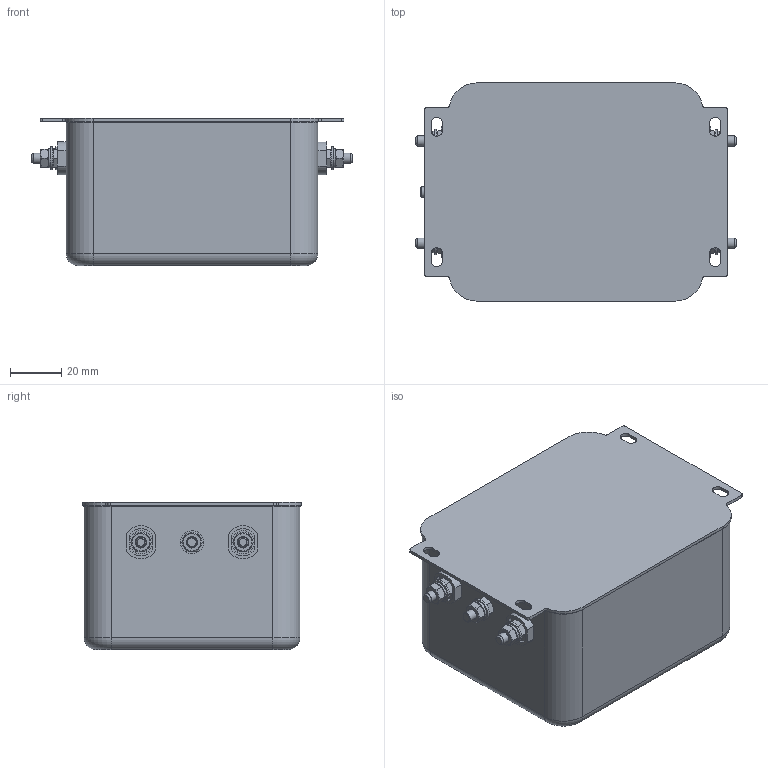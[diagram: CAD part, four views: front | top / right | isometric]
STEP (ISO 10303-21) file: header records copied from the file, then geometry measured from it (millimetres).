
FILE_DESCRIPTION((''),'2;1');
FILE_NAME('P:\Construction\Filter_Marketing\FN\FN2080\FN2080-16-08\FN2080-16-08.stp','2015-05-04T10:12:54',('erika.jenzer'),(''),'Autodesk Inventor 2013','Autodesk Inventor 2013','');
FILE_SCHEMA(('AUTOMOTIVE_DESIGN { 1 0 10303 214 1 1 1 1 }'));
Length unit declared in the file: millimetre
Products named in the file (1): FN2080-16-08
Bounding box: 125.7 x 85.5 x 57.6 mm (x, y, z)
Volume: 477184.7 mm3; surface area: 41656.6 mm2
Topology: 1 solids, 6 shells, 408 faces, 1093 edges, 707 vertices
Faces by surface type: plane 240, cylinder 115, cone 45, torus 8
Full cylindrical faces by diameter (mm): 4 x7, 4.3 x5, 9 x5
Entity records: 12416 total; most frequent: CARTESIAN_POINT 2537, DIRECTION 1938, ORIENTED_EDGE 1916, EDGE_CURVE 958, AXIS2_PLACEMENT_3D 707, VERTEX_POINT 642, EDGE_LOOP 532, VECTOR 524
